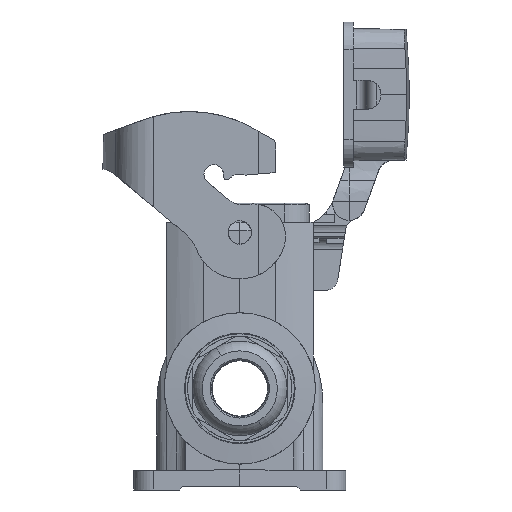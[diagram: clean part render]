
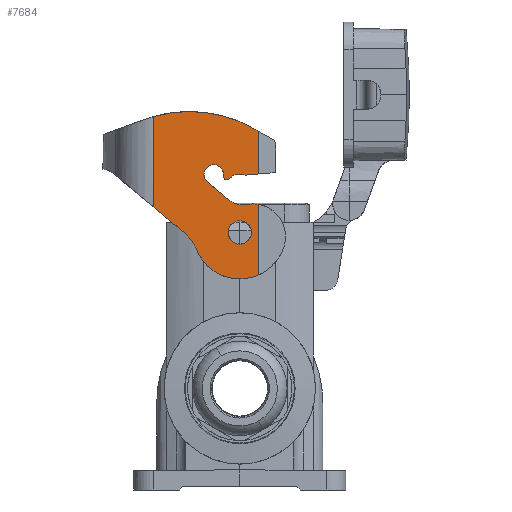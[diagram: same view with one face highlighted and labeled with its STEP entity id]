
A CAD part, left-side view. The second image highlights one B-rep face of the part: STEP entity #7684.
In plain terms, the highlighted planar face has unit normal (-1, 0.009, 0).
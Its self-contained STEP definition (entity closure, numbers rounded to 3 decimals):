
#342=FACE_BOUND('',#10251,.T.);
#343=FACE_BOUND('',#10252,.T.);
#943=ELLIPSE('',#33609,14.225,14.224);
#951=ELLIPSE('',#33619,12.,12.);
#957=ELLIPSE('',#33638,3.6,3.6);
#961=ELLIPSE('',#33645,40.002,40.);
#967=ELLIPSE('',#33652,10.,10.);
#968=ELLIPSE('',#33653,4.75,4.75);
#969=ELLIPSE('',#33654,3.,3.);
#970=ELLIPSE('',#33655,1.,1.);
#971=ELLIPSE('',#33656,4.5,4.5);
#7684=ADVANCED_FACE('',(#342,#343),#8330,.T.);
#8330=PLANE('',#33657);
#10251=EDGE_LOOP('',(#15922,#15923,#15924,#15925,#15926,#15927,#15928,#15929,
#15930,#15931,#15932,#15933,#15934,#15935,#15936,#15937,#15938));
#10252=EDGE_LOOP('',(#15939));
#15922=ORIENTED_EDGE('',*,*,#24529,.T.);
#15923=ORIENTED_EDGE('',*,*,#24447,.F.);
#15924=ORIENTED_EDGE('',*,*,#24464,.F.);
#15925=ORIENTED_EDGE('',*,*,#24442,.F.);
#15926=ORIENTED_EDGE('',*,*,#24530,.T.);
#15927=ORIENTED_EDGE('',*,*,#24531,.T.);
#15928=ORIENTED_EDGE('',*,*,#24532,.T.);
#15929=ORIENTED_EDGE('',*,*,#24533,.T.);
#15930=ORIENTED_EDGE('',*,*,#24534,.T.);
#15931=ORIENTED_EDGE('',*,*,#24535,.T.);
#15932=ORIENTED_EDGE('',*,*,#24536,.T.);
#15933=ORIENTED_EDGE('',*,*,#24537,.T.);
#15934=ORIENTED_EDGE('',*,*,#24538,.T.);
#15935=ORIENTED_EDGE('',*,*,#24539,.T.);
#15936=ORIENTED_EDGE('',*,*,#24540,.T.);
#15937=ORIENTED_EDGE('',*,*,#24541,.T.);
#15938=ORIENTED_EDGE('',*,*,#24519,.T.);
#15939=ORIENTED_EDGE('',*,*,#24512,.F.);
#20249=VERTEX_POINT('',#52925);
#20250=VERTEX_POINT('',#52927);
#20253=VERTEX_POINT('',#52935);
#20254=VERTEX_POINT('',#52937);
#20306=VERTEX_POINT('',#53069);
#20311=VERTEX_POINT('',#53093);
#20312=VERTEX_POINT('',#53095);
#20321=VERTEX_POINT('',#53119);
#20322=VERTEX_POINT('',#53121);
#20323=VERTEX_POINT('',#53123);
#20324=VERTEX_POINT('',#53125);
#20325=VERTEX_POINT('',#53127);
#20326=VERTEX_POINT('',#53129);
#20327=VERTEX_POINT('',#53131);
#20328=VERTEX_POINT('',#53133);
#20329=VERTEX_POINT('',#53135);
#20330=VERTEX_POINT('',#53137);
#20331=VERTEX_POINT('',#53139);
#24442=EDGE_CURVE('',#20249,#20250,#943,.T.);
#24447=EDGE_CURVE('',#20253,#20254,#27270,.T.);
#24464=EDGE_CURVE('',#20250,#20253,#951,.T.);
#24512=EDGE_CURVE('',#20306,#20306,#957,.T.);
#24519=EDGE_CURVE('',#20312,#20311,#961,.T.);
#24529=EDGE_CURVE('',#20311,#20254,#27319,.T.);
#24530=EDGE_CURVE('',#20249,#20321,#27320,.T.);
#24531=EDGE_CURVE('',#20321,#20322,#967,.T.);
#24532=EDGE_CURVE('',#20322,#20323,#27321,.T.);
#24533=EDGE_CURVE('',#20323,#20324,#968,.T.);
#24534=EDGE_CURVE('',#20324,#20325,#27322,.T.);
#24535=EDGE_CURVE('',#20325,#20326,#969,.T.);
#24536=EDGE_CURVE('',#20326,#20327,#27323,.T.);
#24537=EDGE_CURVE('',#20327,#20328,#970,.T.);
#24538=EDGE_CURVE('',#20328,#20329,#971,.T.);
#24539=EDGE_CURVE('',#20329,#20330,#27324,.T.);
#24540=EDGE_CURVE('',#20330,#20331,#27325,.T.);
#24541=EDGE_CURVE('',#20331,#20312,#27326,.T.);
#27270=LINE('',#52936,#29979);
#27319=LINE('',#53117,#30028);
#27320=LINE('',#53118,#30029);
#27321=LINE('',#53122,#30030);
#27322=LINE('',#53126,#30031);
#27323=LINE('',#53130,#30032);
#27324=LINE('',#53136,#30033);
#27325=LINE('',#53138,#30034);
#27326=LINE('',#53140,#30035);
#29979=VECTOR('',#40371,1.);
#30028=VECTOR('',#40502,1.);
#30029=VECTOR('',#40503,1.);
#30030=VECTOR('',#40506,1.);
#30031=VECTOR('',#40509,1.);
#30032=VECTOR('',#40512,1.);
#30033=VECTOR('',#40517,1.);
#30034=VECTOR('',#40518,1.);
#30035=VECTOR('',#40519,1.);
#33609=AXIS2_PLACEMENT_3D('',#52926,#40363,#40364);
#33619=AXIS2_PLACEMENT_3D('',#52975,#40395,#40396);
#33638=AXIS2_PLACEMENT_3D('',#53068,#40470,#40471);
#33645=AXIS2_PLACEMENT_3D('',#53094,#40485,#40486);
#33652=AXIS2_PLACEMENT_3D('',#53120,#40504,#40505);
#33653=AXIS2_PLACEMENT_3D('',#53124,#40507,#40508);
#33654=AXIS2_PLACEMENT_3D('',#53128,#40510,#40511);
#33655=AXIS2_PLACEMENT_3D('',#53132,#40513,#40514);
#33656=AXIS2_PLACEMENT_3D('',#53134,#40515,#40516);
#33657=AXIS2_PLACEMENT_3D('',#53141,#40520,#40521);
#40363=DIRECTION('',(1.,-0.009,0.));
#40364=DIRECTION('',(0.009,1.,0.));
#40371=DIRECTION('',(0.007,0.766,0.643));
#40395=DIRECTION('',(-1.,0.009,0.));
#40396=DIRECTION('',(0.009,1.,0.));
#40470=DIRECTION('',(-1.,0.009,0.));
#40471=DIRECTION('',(0.009,1.,0.));
#40485=DIRECTION('',(-1.,0.009,0.));
#40486=DIRECTION('',(0.009,1.,0.));
#40502=DIRECTION('',(0.,0.,-1.));
#40503=DIRECTION('',(0.,0.,1.));
#40504=DIRECTION('',(-1.,0.009,0.));
#40505=DIRECTION('',(0.009,1.,0.));
#40506=DIRECTION('',(0.009,1.,-0.027));
#40507=DIRECTION('',(1.,-0.009,0.));
#40508=DIRECTION('',(0.009,1.,0.));
#40509=DIRECTION('',(0.007,0.766,0.643));
#40510=DIRECTION('',(1.,-0.009,0.));
#40511=DIRECTION('',(0.009,1.,0.));
#40512=DIRECTION('',(0.,-0.034,-0.999));
#40513=DIRECTION('',(-1.,0.009,0.));
#40514=DIRECTION('',(0.009,1.,0.));
#40515=DIRECTION('',(1.,-0.009,0.));
#40516=DIRECTION('',(0.009,1.,0.));
#40517=DIRECTION('',(-0.009,-0.996,0.087));
#40518=DIRECTION('',(0.,0.,1.));
#40519=DIRECTION('',(0.008,0.866,0.5));
#40520=DIRECTION('',(-1.,0.009,0.));
#40521=DIRECTION('',(-0.009,-1.,0.));
#52925=CARTESIAN_POINT('',(-43.5,-5.729,-10.47));
#52926=CARTESIAN_POINT('',(-43.45,0.,2.55));
#52927=CARTESIAN_POINT('',(-43.334,13.254,-2.614));
#52935=CARTESIAN_POINT('',(-43.304,16.722,2.222));
#52936=CARTESIAN_POINT('',(-43.267,21.012,5.821));
#52937=CARTESIAN_POINT('',(-43.219,26.496,10.423));
#52975=CARTESIAN_POINT('',(-43.237,24.435,-6.971));
#53068=CARTESIAN_POINT('',(-43.45,0.,2.55));
#53069=CARTESIAN_POINT('',(-43.419,3.6,2.55));
#53093=CARTESIAN_POINT('',(-43.219,26.496,38.09));
#53094=CARTESIAN_POINT('',(-43.315,15.464,-0.359));
#53095=CARTESIAN_POINT('',(-43.49,-4.536,34.282));
#53117=CARTESIAN_POINT('',(-43.219,26.496,47.55));
#53118=CARTESIAN_POINT('',(-43.5,-5.729,20.378));
#53119=CARTESIAN_POINT('',(-43.5,-5.729,11.16));
#53120=CARTESIAN_POINT('',(-43.485,-4.037,1.304));
#53121=CARTESIAN_POINT('',(-43.483,-3.765,11.301));
#53122=CARTESIAN_POINT('',(-43.483,-3.765,11.301));
#53123=CARTESIAN_POINT('',(-43.451,-0.129,11.202));
#53124=CARTESIAN_POINT('',(-43.45,0.,15.95));
#53125=CARTESIAN_POINT('',(-43.423,3.053,12.311));
#53126=CARTESIAN_POINT('',(-43.423,3.053,12.311));
#53127=CARTESIAN_POINT('',(-43.363,9.928,18.08));
#53128=CARTESIAN_POINT('',(-43.38,8.,20.378));
#53129=CARTESIAN_POINT('',(-43.406,5.002,20.481));
#53130=CARTESIAN_POINT('',(-43.406,5.002,20.481));
#53131=CARTESIAN_POINT('',(-43.407,4.976,19.716));
#53132=CARTESIAN_POINT('',(-43.415,3.976,19.75));
#53133=CARTESIAN_POINT('',(-43.422,3.253,19.059));
#53134=CARTESIAN_POINT('',(-43.45,0.,15.95));
#53135=CARTESIAN_POINT('',(-43.464,-1.636,20.142));
#53136=CARTESIAN_POINT('',(-43.465,-1.75,20.152));
#53137=CARTESIAN_POINT('',(-43.5,-5.729,20.5));
#53138=CARTESIAN_POINT('',(-43.5,-5.729,20.378));
#53139=CARTESIAN_POINT('',(-43.5,-5.729,33.593));
#53140=CARTESIAN_POINT('',(-43.537,-10.,31.127));
#53141=CARTESIAN_POINT('',(-43.572,-14.,47.55));
